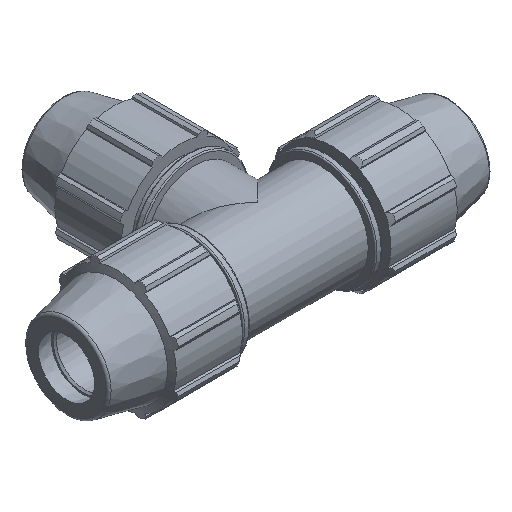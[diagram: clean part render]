
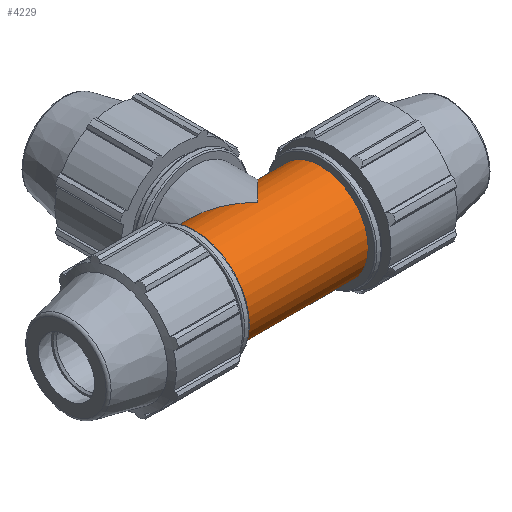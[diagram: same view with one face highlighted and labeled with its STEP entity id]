
A CAD part, isometric view. The second image highlights one B-rep face of the part: STEP entity #4229.
In plain terms, the highlighted cylindrical face has radius 18.002 mm (diameter 36.005 mm), a full revolution.
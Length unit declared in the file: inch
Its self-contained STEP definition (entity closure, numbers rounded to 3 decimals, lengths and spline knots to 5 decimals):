
#125=ELLIPSE('',#4576,1.00232,0.70875);
#126=ELLIPSE('',#4577,1.00232,0.70875);
#127=ELLIPSE('',#4578,1.00232,0.70875);
#128=ELLIPSE('',#4579,1.00232,0.70875);
#243=LINE('',#6604,#558);
#244=LINE('',#6609,#559);
#558=VECTOR('',#5322,0.70875);
#559=VECTOR('',#5327,0.70875);
#789=CYLINDRICAL_SURFACE('',#4575,0.70875);
#928=FACE_OUTER_BOUND('',#1150,.T.);
#1150=EDGE_LOOP('',(#3019,#3020,#3021,#3022,#3023,#3024,#3025,#3026,#3027,
#3028,#3029));
#1313=CIRCLE('',#4412,0.70875);
#1314=CIRCLE('',#4413,0.70875);
#1345=CIRCLE('',#4454,0.70875);
#1535=VERTEX_POINT('',#6083);
#1536=VERTEX_POINT('',#6084);
#1563=VERTEX_POINT('',#6155);
#1692=VERTEX_POINT('',#6603);
#1693=VERTEX_POINT('',#6605);
#1694=VERTEX_POINT('',#6607);
#1695=VERTEX_POINT('',#6610);
#1969=EDGE_CURVE('',#1535,#1536,#1313,.T.);
#1970=EDGE_CURVE('',#1536,#1535,#1314,.T.);
#2003=EDGE_CURVE('',#1563,#1563,#1345,.T.);
#2194=EDGE_CURVE('',#1536,#1692,#243,.T.);
#2195=EDGE_CURVE('',#1692,#1693,#125,.T.);
#2196=EDGE_CURVE('',#1693,#1694,#126,.T.);
#2197=EDGE_CURVE('',#1694,#1563,#244,.T.);
#2198=EDGE_CURVE('',#1694,#1695,#127,.T.);
#2199=EDGE_CURVE('',#1695,#1692,#128,.T.);
#3019=ORIENTED_EDGE('',*,*,#1969,.F.);
#3020=ORIENTED_EDGE('',*,*,#1970,.F.);
#3021=ORIENTED_EDGE('',*,*,#2194,.T.);
#3022=ORIENTED_EDGE('',*,*,#2195,.T.);
#3023=ORIENTED_EDGE('',*,*,#2196,.T.);
#3024=ORIENTED_EDGE('',*,*,#2197,.T.);
#3025=ORIENTED_EDGE('',*,*,#2003,.F.);
#3026=ORIENTED_EDGE('',*,*,#2197,.F.);
#3027=ORIENTED_EDGE('',*,*,#2198,.T.);
#3028=ORIENTED_EDGE('',*,*,#2199,.T.);
#3029=ORIENTED_EDGE('',*,*,#2194,.F.);
#4229=ADVANCED_FACE('',(#928),#789,.T.);
#4412=AXIS2_PLACEMENT_3D('',#6085,#4891,#4892);
#4413=AXIS2_PLACEMENT_3D('',#6086,#4893,#4894);
#4454=AXIS2_PLACEMENT_3D('',#6156,#4977,#4978);
#4575=AXIS2_PLACEMENT_3D('',#6602,#5320,#5321);
#4576=AXIS2_PLACEMENT_3D('',#6606,#5323,#5324);
#4577=AXIS2_PLACEMENT_3D('',#6608,#5325,#5326);
#4578=AXIS2_PLACEMENT_3D('',#6611,#5328,#5329);
#4579=AXIS2_PLACEMENT_3D('',#6612,#5330,#5331);
#4891=DIRECTION('center_axis',(-1.,0.,0.));
#4892=DIRECTION('ref_axis',(0.,0.,-1.));
#4893=DIRECTION('center_axis',(-1.,0.,0.));
#4894=DIRECTION('ref_axis',(0.,0.,-1.));
#4977=DIRECTION('center_axis',(1.,0.,0.));
#4978=DIRECTION('ref_axis',(0.,0.,-1.));
#5320=DIRECTION('center_axis',(-1.,0.,0.));
#5321=DIRECTION('ref_axis',(0.,-1.,0.));
#5322=DIRECTION('',(1.,0.,0.));
#5323=DIRECTION('center_axis',(-0.707,-0.707,0.));
#5324=DIRECTION('ref_axis',(-0.707,0.707,0.));
#5325=DIRECTION('center_axis',(0.707,-0.707,0.));
#5326=DIRECTION('ref_axis',(-0.707,-0.707,0.));
#5327=DIRECTION('',(1.,0.,0.));
#5328=DIRECTION('center_axis',(0.707,-0.707,0.));
#5329=DIRECTION('ref_axis',(-0.707,-0.707,0.));
#5330=DIRECTION('center_axis',(-0.707,-0.707,0.));
#5331=DIRECTION('ref_axis',(-0.707,0.707,0.));
#6083=CARTESIAN_POINT('',(-0.93833,-0.70875,0.));
#6084=CARTESIAN_POINT('',(-0.93833,0.70875,0.));
#6085=CARTESIAN_POINT('Origin',(-0.93833,0.,
0.));
#6086=CARTESIAN_POINT('Origin',(-0.93833,0.,
0.));
#6155=CARTESIAN_POINT('',(0.93833,0.70875,0.));
#6156=CARTESIAN_POINT('Origin',(0.93833,0.,0.));
#6602=CARTESIAN_POINT('Origin',(-0.77667,0.,
0.));
#6603=CARTESIAN_POINT('',(-0.70875,0.70875,0.));
#6604=CARTESIAN_POINT('',(-0.77667,0.70875,0.));
#6605=CARTESIAN_POINT('',(0.,0.,-0.70875));
#6606=CARTESIAN_POINT('Origin',(0.,0.,0.));
#6607=CARTESIAN_POINT('',(0.70875,0.70875,0.));
#6608=CARTESIAN_POINT('Origin',(0.,0.,0.));
#6609=CARTESIAN_POINT('',(-0.77667,0.70875,0.));
#6610=CARTESIAN_POINT('',(0.,0.,0.70875));
#6611=CARTESIAN_POINT('Origin',(0.,0.,0.));
#6612=CARTESIAN_POINT('Origin',(0.,0.,0.));
